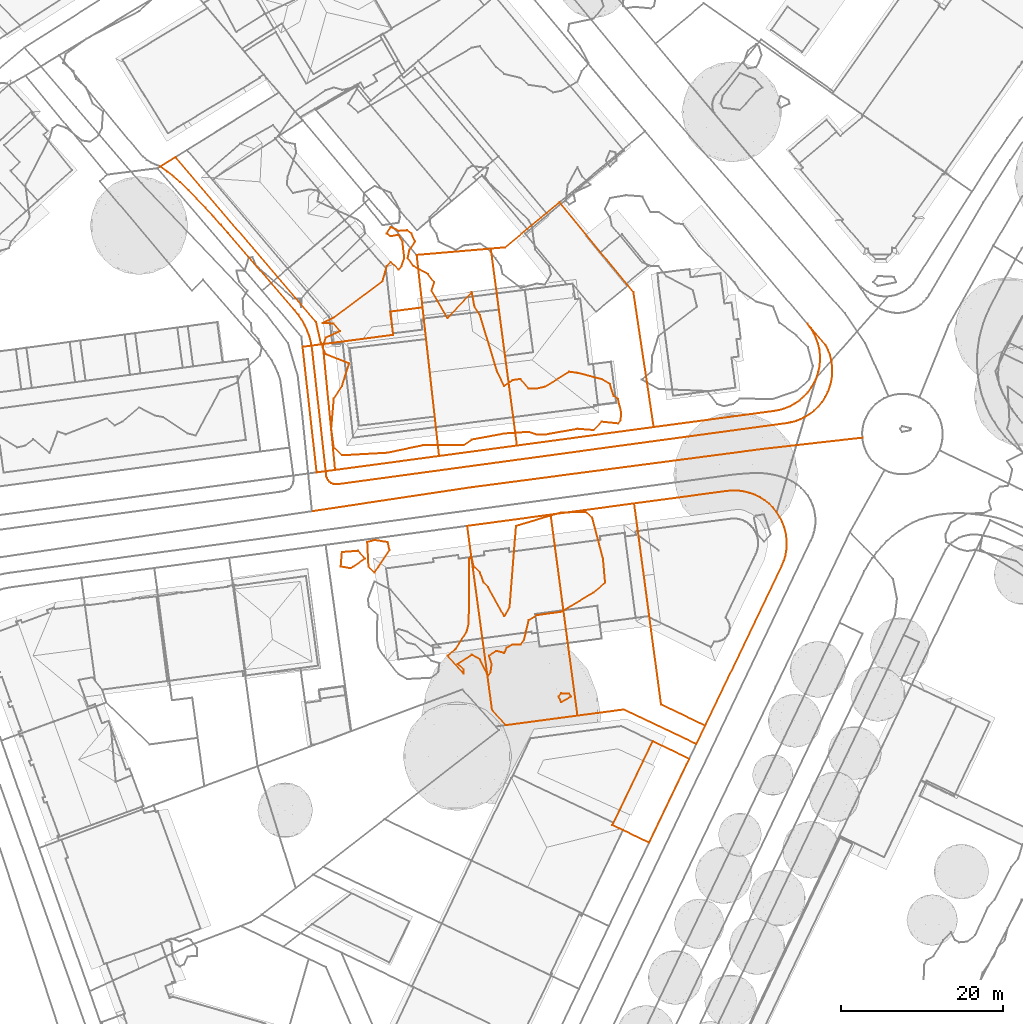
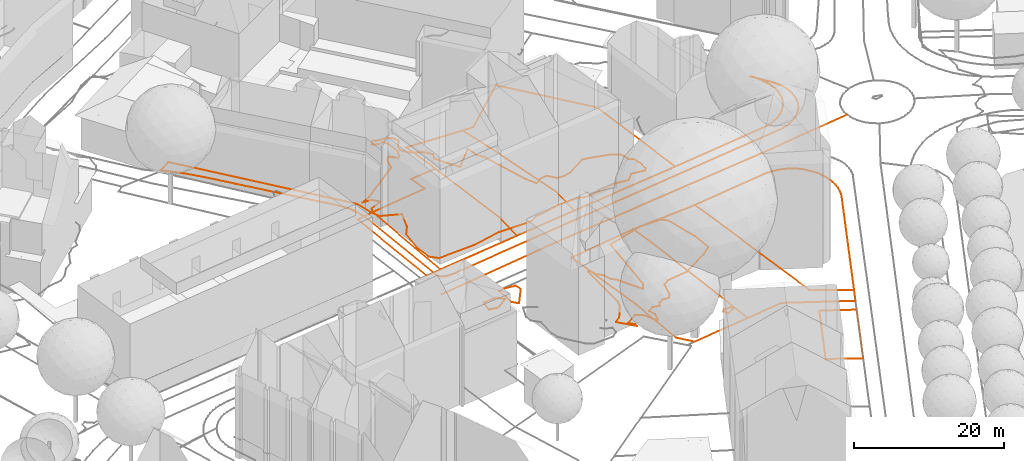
# Not in any storey, part 188 of 494: 14 proxies.
"""IFC2X3 model written with IfcOpenShell, lengths in metres."""

from ifc_helpers import new_model, entity, si_unit, frame, origin_with_axes, place, context, subcontext, project, element, save


model = new_model("IFC2X3")

# Units and contexts
model_context = context("Model", 3, precision=1e-05, world=origin_with_axes())
body_context = subcontext(model_context, "Body", "Model", "MODEL_VIEW")
ifc_project = project(units=[si_unit("AREAUNIT", "SQUARE_METRE"), si_unit("LENGTHUNIT", "METRE")], contexts=[model_context])

# Proxies
proxy_1_placement = place(None, frame((511.9917320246, 179.9737376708, 502.506), z_axis=(0.0, 0.0, 1.0), x_axis=(1.0, 0.0, 0.0)))
element("IfcBuildingElementProxy", 1, at=proxy_1_placement, Name="Road 93", ObjectType="NOTDEFINED", context=body_context, shape_type="GeometricCurveSet", body=[
    entity("IfcGeometricCurveSet", [entity("IfcPolyline", [entity("IfcCartesianPoint", [0.0, 0.0, 0.0]), entity("IfcCartesianPoint", [19.5309999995, 2.9369999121, -0.038]), entity("IfcCartesianPoint", [55.3339999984, 7.6429997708, -0.247]), entity("IfcCartesianPoint", [67.7840000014, 9.0569997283, 0.115])])]),
])
proxy_2_placement = place(None, frame((493.3087320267, 222.4267160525, 503.5405083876), z_axis=(0.0, 0.0, 1.0), x_axis=(1.0, 0.0, 0.0)))
element("IfcBuildingElementProxy", 2, at=proxy_2_placement, Name="Roads Outline 70", ObjectType="NOTDEFINED", context=body_context, shape_type="GeometricCurveSet", body=[
    entity("IfcGeometricCurveSet", [entity("IfcPolyline", [entity("IfcCartesianPoint", [0.0, 0.0, 0.0]), entity("IfcCartesianPoint", [1.8829999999, 1.173, 0.0008300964]), entity("IfcCartesianPoint", [19.1940000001, -19.169, -0.5514574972]), entity("IfcCartesianPoint", [19.7799999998, -21.7480000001, -0.5092857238]), entity("IfcCartesianPoint", [20.0580000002, -22.2409999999, -0.5240835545]), entity("IfcCartesianPoint", [21.5350000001, -37.3160000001, -1.0057209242]), entity("IfcCartesianPoint", [21.54, -37.3689999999, -1.0095857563]), entity("IfcCartesianPoint", [34.344, -35.6540000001, -1.0138659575]), entity("IfcCartesianPoint", [43.9330000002, -34.3640000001, -1.053293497]), entity("IfcCartesianPoint", [60.7710000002, -32.0930000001, -1.191084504]), entity("IfcCartesianPoint", [75.4500000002, -30.121, -1.1636631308]), entity("IfcCartesianPoint", [76.1510000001, -30.0020000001, -1.1685990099]), entity("IfcCartesianPoint", [76.8339999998, -29.808, -1.1501033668]), entity("IfcCartesianPoint", [77.4929999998, -29.541, -1.1112355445]), entity("IfcCartesianPoint", [78.1179999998, -29.2040000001, -1.0986944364]), entity("IfcCartesianPoint", [78.7039999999, -28.801, -1.0946500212]), entity("IfcCartesianPoint", [79.2420000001, -28.338, -1.0775412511]), entity("IfcCartesianPoint", [79.727, -27.818, -1.057606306]), entity("IfcCartesianPoint", [80.1529999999, -27.25, -1.0294175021]), entity("IfcCartesianPoint", [80.5150000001, -26.638, -1.0012168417]), entity("IfcCartesianPoint", [80.8089999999, -25.9909999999, -0.9704825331]), entity("IfcCartesianPoint", [81.031, -25.3219999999, -0.9442313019]), entity("IfcCartesianPoint", [81.1800000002, -24.632, -0.930510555]), entity("IfcCartesianPoint", [81.253, -23.9310000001, -0.938226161]), entity("IfcCartesianPoint", [81.25, -23.2250000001, -0.9795968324]), entity("IfcCartesianPoint", [81.1699999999, -22.5250000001, -1.0028634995]), entity("IfcCartesianPoint", [81.0150000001, -21.8370000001, -0.9585011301]), entity("IfcCartesianPoint", [80.7859999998, -21.1699999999, -0.9448535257]), entity("IfcCartesianPoint", [80.486, -20.531, -0.9077205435]), entity("IfcCartesianPoint", [80.1189999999, -19.929, -0.859204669]), entity("IfcCartesianPoint", [79.6889999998, -19.3700000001, -0.8357512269]), entity("IfcCartesianPoint", [81.9500000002, -21.9739999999, -1.0920527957]), entity("IfcCartesianPoint", [82.2489999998, -22.591, -1.093836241]), entity("IfcCartesianPoint", [82.4819999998, -23.236, -1.1046526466]), entity("IfcCartesianPoint", [82.6460000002, -23.902, -1.1120751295]), entity("IfcCartesianPoint", [82.7379999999, -24.5590000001, -1.1062600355]), entity("IfcCartesianPoint", [82.7620000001, -25.2220000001, -1.1075489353]), entity("IfcCartesianPoint", [82.7200000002, -25.8840000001, -1.1090657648]), entity("IfcCartesianPoint", [82.6099999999, -26.5379999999, -1.1169042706]), entity("IfcCartesianPoint", [82.4339999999, -27.1770000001, -1.118827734]), entity("IfcCartesianPoint", [82.1949999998, -27.7960000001, -1.1172088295]), entity("IfcCartesianPoint", [81.8939999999, -28.3870000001, -1.0991241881]), entity("IfcCartesianPoint", [81.5040000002, -28.987, -1.0999226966]), entity("IfcCartesianPoint", [81.051, -29.541, -1.1089248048]), entity("IfcCartesianPoint", [80.54, -30.0420000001, -1.1220300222]), entity("IfcCartesianPoint", [79.9780000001, -30.483, -1.1329259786]), entity("IfcCartesianPoint", [79.3700000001, -30.861, -1.142311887]), entity("IfcCartesianPoint", [78.8330000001, -31.1240000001, -1.1480217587]), entity("IfcCartesianPoint", [78.2749999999, -31.3370000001, -1.1594463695]), entity("IfcCartesianPoint", [77.699, -31.4980000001, -1.1706182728]), entity("IfcCartesianPoint", [77.111, -31.605, -1.1690021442]), entity("IfcCartesianPoint", [21.929, -39.1189999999, -1.0370071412]), entity("IfcCartesianPoint", [21.628, -39.1400000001, -1.0329453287]), entity("IfcCartesianPoint", [21.3300000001, -39.0900000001, -1.0324168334]), entity("IfcCartesianPoint", [21.0520000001, -38.9710000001, -1.0362197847]), entity("IfcCartesianPoint", [20.8110000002, -38.7890000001, -1.0437929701]), entity("IfcCartesianPoint", [20.645, -38.595, -1.0435641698]), entity("IfcCartesianPoint", [20.5219999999, -38.371, -1.0449149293]), entity("IfcCartesianPoint", [20.446, -38.1270000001, -1.0486930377]), entity("IfcCartesianPoint", [20.4199999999, -37.8730000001, -1.0535381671]), entity("IfcCartesianPoint", [20.3810000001, -37.524, -1.0446409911]), entity("IfcCartesianPoint", [18.7409999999, -22.8360000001, -0.6262854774]), entity("IfcCartesianPoint", [18.659, -22.1629999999, -0.6211866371]), entity("IfcCartesianPoint", [18.5260000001, -21.497, -0.6271341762]), entity("IfcCartesianPoint", [18.3429999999, -20.844, -0.6468426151]), entity("IfcCartesianPoint", [18.1099999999, -20.2069999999, -0.6360962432]), entity("IfcCartesianPoint", [17.7990000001, -19.53, -0.6207729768]), entity("IfcCartesianPoint", [17.432, -18.8810000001, -0.6179011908]), entity("IfcCartesianPoint", [17.0120000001, -18.2650000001, -0.6403395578]), entity("IfcCartesianPoint", [16.5430000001, -17.686, -0.6355091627]), entity("IfcCartesianPoint", [8.3620000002, -8.1950000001, -0.4770104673]), entity("IfcCartesianPoint", [7.469, -7.183, -0.438219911]), entity("IfcCartesianPoint", [6.5720000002, -6.176, -0.3978344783]), entity("IfcCartesianPoint", [5.5520000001, -5.047, -0.3437779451]), entity("IfcCartesianPoint", [4.5040000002, -3.9440000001, -0.289191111]), entity("IfcCartesianPoint", [3.4950000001, -2.932, -0.2240882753]), entity("IfcCartesianPoint", [2.4619999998, -1.943, -0.1494847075]), entity("IfcCartesianPoint", [1.6660000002, -1.2650000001, -0.102284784]), entity("IfcCartesianPoint", [0.8450000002, -0.6170000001, -0.0582447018]), entity("IfcCartesianPoint", [0.0, 0.0, 0.0])])]),
])
proxy_3_placement = place(None, frame((548.9817320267, 141.3237160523, 502.4662304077), z_axis=(0.0, 0.0, 1.0), x_axis=(1.0, 0.0, 0.0)))
element("IfcBuildingElementProxy", 3, at=proxy_3_placement, Name="Roads Outline 82", ObjectType="NOTDEFINED", context=body_context, shape_type="GeometricCurveSet", body=[
    entity("IfcGeometricCurveSet", [entity("IfcPolyline", [entity("IfcCartesianPoint", [0.0, 0.0, 0.0]), entity("IfcCartesianPoint", [4.9679999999, 10.3150000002, -0.0618992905]), entity("IfcCartesianPoint", [9.4649999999, 8.1560000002, -0.1635187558]), entity("IfcCartesianPoint", [4.5150000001, -2.1699999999, -0.091474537]), entity("IfcCartesianPoint", [1.307, -0.6279999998, 0.0287665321]), entity("IfcCartesianPoint", [0.0, 0.0, 0.0])])]),
])
proxy_4_placement = place(None, frame((541.3917320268, 179.5527160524, 503.1381220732), z_axis=(0.0, 0.0, 1.0), x_axis=(1.0, 0.0, 0.0)))
element("IfcBuildingElementProxy", 4, at=proxy_4_placement, Name="Cadastre 119", ObjectType="NOTDEFINED", context=body_context, shape_type="GeometricCurveSet", body=[
    entity("IfcGeometricCurveSet", [entity("IfcPolyline", [entity("IfcCartesianPoint", [0.0, 0.0, 0.0]), entity("IfcCartesianPoint", [10.2790000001, 1.3810000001, -0.5006804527]), entity("IfcCartesianPoint", [10.7349999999, -2.02, -0.451496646]), entity("IfcCartesianPoint", [12.1629999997, -12.676, -0.459195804]), entity("IfcCartesianPoint", [13.5989999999, -23.3899999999, -0.4635305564]), entity("IfcCartesianPoint", [19.0189999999, -25.99, -0.7698652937]), entity("IfcCartesianPoint", [17.929, -28.25, -0.8132954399]), entity("IfcCartesianPoint", [9.0, -24.0, -0.6009173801]), entity("IfcCartesianPoint", [3.301, -24.75, -0.6209552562]), entity("IfcCartesianPoint", [2.179, -16.344, -0.271220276]), entity("IfcCartesianPoint", [0.5109999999, -3.8359999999, 0.0267576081]), entity("IfcCartesianPoint", [0.0, 0.0, 0.0])])]),
])
proxy_5_placement = place(None, frame((531.1127320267, 178.1627160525, 502.9583674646), z_axis=(0.0, 0.0, 1.0), x_axis=(1.0, 0.0, 0.0)))
element("IfcBuildingElementProxy", 5, at=proxy_5_placement, Name="Cadastre 120", ObjectType="NOTDEFINED", context=body_context, shape_type="GeometricCurveSet", body=[
    entity("IfcGeometricCurveSet", [entity("IfcPolyline", [entity("IfcCartesianPoint", [0.0, 0.0, 0.0]), entity("IfcCartesianPoint", [10.2790000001, 1.3899999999, 0.1797546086]), entity("IfcCartesianPoint", [10.79, -2.446, 0.2065122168]), entity("IfcCartesianPoint", [12.4580000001, -14.9540000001, -0.0914656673]), entity("IfcCartesianPoint", [13.5800000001, -23.3600000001, -0.4412006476]), entity("IfcCartesianPoint", [4.7409999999, -24.54, -0.4690899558]), entity("IfcCartesianPoint", [3.051, -22.605, -0.4136845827]), entity("IfcCartesianPoint", [1.872, -13.8640000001, 0.1117517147]), entity("IfcCartesianPoint", [0.5129999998, -3.8060000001, 0.013440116]), entity("IfcCartesianPoint", [0.0, 0.0, 0.0])])]),
])
proxy_6_placement = place(None, frame((534.0217320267, 212.3147160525, 501.9033173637), z_axis=(0.0, 0.0, 1.0), x_axis=(1.0, 0.0, 0.0)))
element("IfcBuildingElementProxy", 6, at=proxy_6_placement, Name="Cadastre 124", ObjectType="NOTDEFINED", context=body_context, shape_type="GeometricCurveSet", body=[
    entity("IfcGeometricCurveSet", [entity("IfcPolyline", [entity("IfcCartesianPoint", [0.0, 0.0, 0.0]), entity("IfcCartesianPoint", [1.7400000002, 0.1499999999, -0.0782272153]), entity("IfcCartesianPoint", [8.449, 5.7209999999, 0.9568357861]), entity("IfcCartesianPoint", [17.5580000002, -5.3590000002, 0.8930378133]), entity("IfcCartesianPoint", [20.0580000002, -21.9810000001, 0.4461065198]), entity("IfcCartesianPoint", [3.2200000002, -24.2520000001, 0.5838975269]), entity("IfcCartesianPoint", [2.7570000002, -20.7620000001, 1.3854650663]), entity("IfcCartesianPoint", [0.733, -5.523, 0.492909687]), entity("IfcCartesianPoint", [0.0, 0.0, 0.0])])]),
])
proxy_7_placement = place(None, frame((524.8927320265, 211.5337160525, 502.8354814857), z_axis=(0.0, 0.0, 1.0), x_axis=(1.0, 0.0, 0.0)))
element("IfcBuildingElementProxy", 7, at=proxy_7_placement, Name="Cadastre 125", ObjectType="NOTDEFINED", context=body_context, shape_type="GeometricCurveSet", body=[
    entity("IfcGeometricCurveSet", [entity("IfcPolyline", [entity("IfcCartesianPoint", [0.0, 0.0, 0.0]), entity("IfcCartesianPoint", [9.1290000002, 0.781, -0.932164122]), entity("IfcCartesianPoint", [9.8620000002, -4.7420000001, -0.439254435]), entity("IfcCartesianPoint", [11.8860000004, -19.9810000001, 0.4533009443]), entity("IfcCartesianPoint", [12.3490000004, -23.4710000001, -0.3482665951]), entity("IfcCartesianPoint", [2.7600000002, -24.7610000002, -0.3088390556]), entity("IfcCartesianPoint", [2.3600000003, -21.1730000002, 0.389308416]), entity("IfcCartesianPoint", [0.7200000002, -6.4600000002, 0.2206133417]), entity("IfcCartesianPoint", [0.6640000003, -5.9530000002, 0.2133300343]), entity("IfcCartesianPoint", [0.0, 0.0, 0.0])])]),
])
proxy_8_placement = place(None, frame((510.8347320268, 200.2227160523, 502.8837048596), z_axis=(0.0, 0.0, 1.0), x_axis=(1.0, 0.0, 0.0)))
element("IfcBuildingElementProxy", 8, at=proxy_8_placement, Name="Cadastre 130", ObjectType="NOTDEFINED", context=body_context, shape_type="GeometricCurveSet", body=[
    entity("IfcGeometricCurveSet", [entity("IfcPolyline", [entity("IfcCartesianPoint", [0.0, 0.0, 0.0]), entity("IfcCartesianPoint", [3.6970000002, 0.4870000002, 0.1334611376]), entity("IfcCartesianPoint", [11.1680000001, 1.4710000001, 0.2153807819]), entity("IfcCartesianPoint", [10.798, 4.331, 0.1897946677]), entity("IfcCartesianPoint", [14.7779999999, 4.851, 0.1723899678]), entity("IfcCartesianPoint", [16.4180000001, -9.862, 0.3410850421]), entity("IfcCartesianPoint", [16.818, -13.45, -0.3570624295]), entity("IfcCartesianPoint", [1.7399999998, -15.47, -0.3777011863]), entity("IfcCartesianPoint", [0.0, 0.0, 0.0])])]),
])
proxy_9_placement = place(None, frame((551.6707320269, 180.9337160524, 502.6374416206), z_axis=(0.0, 0.0, 1.0), x_axis=(1.0, 0.0, 0.0)))
element("IfcBuildingElementProxy", 9, at=proxy_9_placement, Name="Cadastre 224", ObjectType="NOTDEFINED", context=body_context, shape_type="GeometricCurveSet", body=[
    entity("IfcGeometricCurveSet", [entity("IfcPolyline", [entity("IfcCartesianPoint", [0.0, 0.0, 0.0]), entity("IfcCartesianPoint", [11.449, 1.541, 0.0812893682]), entity("IfcCartesianPoint", [12.142, 1.5919999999, 0.0638271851]), entity("IfcCartesianPoint", [12.8369999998, 1.5700000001, 0.0569646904]), entity("IfcCartesianPoint", [13.5259999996, 1.4739999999, 0.0616647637]), entity("IfcCartesianPoint", [14.2009999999, 1.3049999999, 0.0778843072]), entity("IfcCartesianPoint", [14.8539999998, 1.0659999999, 0.0798129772]), entity("IfcCartesianPoint", [15.4779999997, 0.7590000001, 0.0781486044]), entity("IfcCartesianPoint", [16.0649999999, 0.3870000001, 0.0659730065]), entity("IfcCartesianPoint", [16.6099999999, -0.0449999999, 0.0397768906]), entity("IfcCartesianPoint", [17.1059999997, -0.5320000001, -0.0118662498]), entity("IfcCartesianPoint", [17.548, -1.0689999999, -0.0467115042]), entity("IfcCartesianPoint", [17.9279999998, -1.6580000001, -0.0595239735]), entity("IfcCartesianPoint", [18.2419999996, -2.284, -0.1047420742]), entity("IfcCartesianPoint", [18.4879999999, -2.939, -0.1681350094]), entity("IfcCartesianPoint", [18.6629999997, -3.618, -0.1859530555]), entity("IfcCartesianPoint", [18.764, -4.311, -0.2019208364]), entity("IfcCartesianPoint", [18.7909999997, -5.0109999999, -0.238912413]), entity("IfcCartesianPoint", [18.7419999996, -5.71, -0.2538547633]), entity("IfcCartesianPoint", [18.6199999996, -6.399, -0.2562696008]), entity("IfcCartesianPoint", [18.4239999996, -7.0719999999, -0.2564971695]), entity("IfcCartesianPoint", [18.1579999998, -7.72, -0.2441556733]), entity("IfcCartesianPoint", [8.7399999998, -27.371, -0.269184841]), entity("IfcCartesianPoint", [3.3199999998, -24.7709999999, 0.0371498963]), entity("IfcCartesianPoint", [1.8839999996, -14.057, 0.0414846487]), entity("IfcCartesianPoint", [0.4559999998, -3.4010000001, 0.0491838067]), entity("IfcCartesianPoint", [0.0, 0.0, 0.0])])]),
])
proxy_10_placement = place(None, frame((513.2995430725, 200.1707160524, 503.0), z_axis=(0.0, 0.0, 1.0), x_axis=(1.0, 0.0, 0.0)))
element("IfcBuildingElementProxy", 10, at=proxy_10_placement, Name="Contour Line 503.0 m", ObjectType="NOTDEFINED", context=body_context, shape_type="GeometricCurveSet", body=[
    entity("IfcGeometricCurveSet", [entity("IfcPolyline", [entity("IfcCartesianPoint", [7.9467291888, -13.0, 0.0]), entity("IfcCartesianPoint", [2.3781889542, -13.3134650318, 0.0]), entity("IfcCartesianPoint", [1.3781889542, -12.3411704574, 0.0]), entity("IfcCartesianPoint", [1.0625399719, -10.0, 0.0]), entity("IfcCartesianPoint", [1.3781889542, -6.3185328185, 0.0]), entity("IfcCartesianPoint", [2.3781889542, -4.7870813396, 0.0]), entity("IfcCartesianPoint", [3.246875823, -2.0, 0.0]), entity("IfcCartesianPoint", [0.3781889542, -0.8597833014, 0.0]), entity("IfcCartesianPoint", [0.0, 0.0, 0.0]), entity("IfcCartesianPoint", [0.3781889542, 1.1705930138, 0.0]), entity("IfcCartesianPoint", [2.1497265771, 2.0, 0.0]), entity("IfcCartesianPoint", [1.3781889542, 2.8933080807, 0.0]), entity("IfcCartesianPoint", [0.002188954, 3.0, 0.0]), entity("IfcCartesianPoint", [1.3781889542, 3.6425855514, 0.0]), entity("IfcCartesianPoint", [7.3781889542, 8.130925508, 0.0]), entity("IfcCartesianPoint", [7.8918365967, 10.0, 0.0]), entity("IfcCartesianPoint", [8.3781889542, 10.4703059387, 0.0]), entity("IfcCartesianPoint", [9.3781889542, 9.5434523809, 0.0]), entity("IfcCartesianPoint", [9.7054073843, 10.0, 0.0]), entity("IfcCartesianPoint", [10.0615892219, 11.0, 0.0]), entity("IfcCartesianPoint", [9.8325372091, 13.0, 0.0]), entity("IfcCartesianPoint", [9.3781889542, 13.8622754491, 0.0]), entity("IfcCartesianPoint", [8.3781889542, 13.6613756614, 0.0]), entity("IfcCartesianPoint", [7.8748616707, 14.0, 0.0]), entity("IfcCartesianPoint", [8.3781889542, 14.8062015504, 0.0]), entity("IfcCartesianPoint", [9.3781889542, 14.3274021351, 0.0]), entity("IfcCartesianPoint", [10.3781889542, 14.3971462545, 0.0]), entity("IfcCartesianPoint", [10.9636403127, 14.0, 0.0]), entity("IfcCartesianPoint", [11.3797498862, 13.0, 0.0]), entity("IfcCartesianPoint", [10.6873820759, 12.0, 0.0]), entity("IfcCartesianPoint", [10.4836751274, 11.0, 0.0]), entity("IfcCartesianPoint", [11.1827807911, 10.0, 0.0]), entity("IfcCartesianPoint", [12.9676675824, 9.0, 0.0]), entity("IfcCartesianPoint", [13.7594882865, 8.0, 0.0]), entity("IfcCartesianPoint", [13.4100306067, 7.0, 0.0]), entity("IfcCartesianPoint", [15.3781889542, 3.5960144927, 0.0]), entity("IfcCartesianPoint", [18.3781889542, 6.7758620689, 0.0]), entity("IfcCartesianPoint", [18.7049495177, 5.0, 0.0]), entity("IfcCartesianPoint", [19.3781889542, 3.9698275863, 0.0]), entity("IfcCartesianPoint", [21.493965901, -3.0, 0.0]), entity("IfcCartesianPoint", [22.3781889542, -4.7573504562, 0.0]), entity("IfcCartesianPoint", [23.3781889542, -4.059817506, 0.0]), entity("IfcCartesianPoint", [24.3781889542, -3.9084321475, 0.0]), entity("IfcCartesianPoint", [25.3781889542, -5.0783926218, 0.0]), entity("IfcCartesianPoint", [26.3781889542, -5.0946630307, 0.0]), entity("IfcCartesianPoint", [27.3781889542, -4.8623966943, 0.0]), entity("IfcCartesianPoint", [30.3781889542, -3.0249791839, 0.0]), entity("IfcCartesianPoint", [31.3781889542, -3.1597510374, 0.0]), entity("IfcCartesianPoint", [34.3781889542, -3.9309220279, 0.0]), entity("IfcCartesianPoint", [35.3781889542, -4.5421363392, 0.0]), entity("IfcCartesianPoint", [35.8455052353, -6.0, 0.0]), entity("IfcCartesianPoint", [36.3781889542, -6.3804001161, 0.0]), entity("IfcCartesianPoint", [36.7691508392, -8.0, 0.0]), entity("IfcCartesianPoint", [36.7013877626, -9.0, 0.0]), entity("IfcCartesianPoint", [36.3781889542, -9.3881750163, 0.0]), entity("IfcCartesianPoint", [34.3781889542, -9.1741811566, 0.0]), entity("IfcCartesianPoint", [33.3781889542, -10.2026829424, 0.0]), entity("IfcCartesianPoint", [31.3781889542, -10.0481211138, 0.0]), entity("IfcCartesianPoint", [27.3781889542, -10.7629084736, 0.0]), entity("IfcCartesianPoint", [26.3781889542, -10.7891728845, 0.0]), entity("IfcCartesianPoint", [25.3781889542, -10.42496361, 0.0]), entity("IfcCartesianPoint", [22.3781889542, -10.6273112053, 0.0]), entity("IfcCartesianPoint", [18.3781889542, -11.3762099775, 0.0]), entity("IfcCartesianPoint", [17.3781889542, -12.0615790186, 0.0]), entity("IfcCartesianPoint", [12.3781889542, -12.0682257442, 0.0]), entity("IfcCartesianPoint", [7.9467291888, -13.0, 0.0])])]),
])
proxy_11_placement = place(None, frame((518.8009518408, 176.1707160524, 503.0), z_axis=(0.0, 0.0, 1.0), x_axis=(1.0, 0.0, 0.0)))
element("IfcBuildingElementProxy", 11, at=proxy_11_placement, Name="Contour Line 503.0 m", ObjectType="NOTDEFINED", context=body_context, shape_type="GeometricCurveSet", body=[
    entity("IfcGeometricCurveSet", [entity("IfcPolyline", [entity("IfcCartesianPoint", [1.3837590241, -3.0, 0.0]), entity("IfcCartesianPoint", [0.8767801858, -3.751167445, 0.0]), entity("IfcCartesianPoint", [0.1507969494, -3.0, 0.0]), entity("IfcCartesianPoint", [0.0, 0.0, 0.0]), entity("IfcCartesianPoint", [0.8767801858, 0.255135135, 0.0]), entity("IfcCartesianPoint", [2.5288539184, 0.0, 0.0]), entity("IfcCartesianPoint", [2.73315119, -1.0, 0.0]), entity("IfcCartesianPoint", [1.3837590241, -3.0, 0.0])])]),
])
proxy_12_placement = place(None, frame((515.5275331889, 173.1707160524, 503.0), z_axis=(0.0, 0.0, 1.0), x_axis=(1.0, 0.0, 0.0)))
element("IfcBuildingElementProxy", 12, at=proxy_12_placement, Name="Contour Line 503.0 m", ObjectType="NOTDEFINED", context=body_context, shape_type="GeometricCurveSet", body=[
    entity("IfcGeometricCurveSet", [entity("IfcPolyline", [entity("IfcCartesianPoint", [1.5862503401, 0.0, 0.0]), entity("IfcCartesianPoint", [1.1501988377, -0.2244807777, 0.0]), entity("IfcCartesianPoint", [0.0, 0.0, 0.0]), entity("IfcCartesianPoint", [0.1501988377, 1.777056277, 0.0]), entity("IfcCartesianPoint", [2.1501988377, 1.9274546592, 0.0]), entity("IfcCartesianPoint", [3.0104076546, 1.0, 0.0]), entity("IfcCartesianPoint", [1.5862503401, 0.0, 0.0])])]),
])
proxy_13_placement = place(None, frame((528.6798067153, 162.1707160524, 503.0), z_axis=(0.0, 0.0, 1.0), x_axis=(1.0, 0.0, 0.0)))
element("IfcBuildingElementProxy", 13, at=proxy_13_placement, Name="Contour Line 503.0 m", ObjectType="NOTDEFINED", context=body_context, shape_type="GeometricCurveSet", body=[
    entity("IfcGeometricCurveSet", [entity("IfcPolyline", [entity("IfcCartesianPoint", [5.2996983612, -2.0, 0.0]), entity("IfcCartesianPoint", [4.9979253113, -2.4612466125, 0.0]), entity("IfcCartesianPoint", [3.9979253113, -0.4508710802, 0.0]), entity("IfcCartesianPoint", [2.9979253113, 0.1418853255, 0.0]), entity("IfcCartesianPoint", [1.2709949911, -1.0, 0.0]), entity("IfcCartesianPoint", [1.9979253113, -1.7043795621, 0.0]), entity("IfcCartesianPoint", [1.9979253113, -2.1843003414, 0.0]), entity("IfcCartesianPoint", [0.0, 0.0, 0.0]), entity("IfcCartesianPoint", [0.9979253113, 0.8236301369, 0.0]), entity("IfcCartesianPoint", [2.3583531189, 3.0, 0.0]), entity("IfcCartesianPoint", [2.622332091, 4.0, 0.0]), entity("IfcCartesianPoint", [2.6733179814, 12.0, 0.0]), entity("IfcCartesianPoint", [2.9979253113, 12.0427291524, 0.0]), entity("IfcCartesianPoint", [3.2249105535, 11.0, 0.0]), entity("IfcCartesianPoint", [3.9979253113, 10.2715231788, 0.0]), entity("IfcCartesianPoint", [4.4510608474, 9.0, 0.0]), entity("IfcCartesianPoint", [4.9979253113, 8.4834394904, 0.0]), entity("IfcCartesianPoint", [6.9979253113, 4.8604091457, 0.0]), entity("IfcCartesianPoint", [7.6497848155, 6.0, 0.0]), entity("IfcCartesianPoint", [8.4396552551, 16.0, 0.0]), entity("IfcCartesianPoint", [13.9979253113, 17.649588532, 0.0]), entity("IfcCartesianPoint", [16.9979253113, 17.6976984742, 0.0]), entity("IfcCartesianPoint", [17.8257866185, 17.0, 0.0]), entity("IfcCartesianPoint", [19.1491987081, 12.0, 0.0]), entity("IfcCartesianPoint", [19.4134906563, 9.0, 0.0]), entity("IfcCartesianPoint", [17.9979253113, 7.8078740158, 0.0]), entity("IfcCartesianPoint", [13.9979253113, 5.4141414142, 0.0]), entity("IfcCartesianPoint", [10.9979253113, 5.001356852, 0.0]), entity("IfcCartesianPoint", [9.9979253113, 4.3681843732, 0.0]), entity("IfcCartesianPoint", [9.4297374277, 2.0, 0.0]), entity("IfcCartesianPoint", [8.9979253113, 1.3969437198, 0.0]), entity("IfcCartesianPoint", [7.9979253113, 1.3942338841, 0.0]), entity("IfcCartesianPoint", [7.290778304, 1.0, 0.0]), entity("IfcCartesianPoint", [6.9979253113, 0.3403141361, 0.0]), entity("IfcCartesianPoint", [5.9979253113, 0.603960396, 0.0]), entity("IfcCartesianPoint", [5.1012785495, 0.0, 0.0]), entity("IfcCartesianPoint", [5.4553754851, -1.0, 0.0]), entity("IfcCartesianPoint", [5.2996983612, -2.0, 0.0])])]),
])
proxy_14_placement = place(None, frame((542.3594680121, 157.1707160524, 503.0), z_axis=(0.0, 0.0, 1.0), x_axis=(1.0, 0.0, 0.0)))
element("IfcBuildingElementProxy", 14, at=proxy_14_placement, Name="Contour Line 503.0 m", ObjectType="NOTDEFINED", context=body_context, shape_type="GeometricCurveSet", body=[
    entity("IfcGeometricCurveSet", [entity("IfcPolyline", [entity("IfcCartesianPoint", [1.5589876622, 0.0, 0.0]), entity("IfcCartesianPoint", [0.3182640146, -0.7118301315, 0.0]), entity("IfcCartesianPoint", [0.0, 0.0, 0.0]), entity("IfcCartesianPoint", [0.3182640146, 0.3779865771, 0.0]), entity("IfcCartesianPoint", [1.3182640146, 0.3194512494, 0.0]), entity("IfcCartesianPoint", [1.5589876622, 0.0, 0.0])])]),
])

save(model, "model.ifc")
